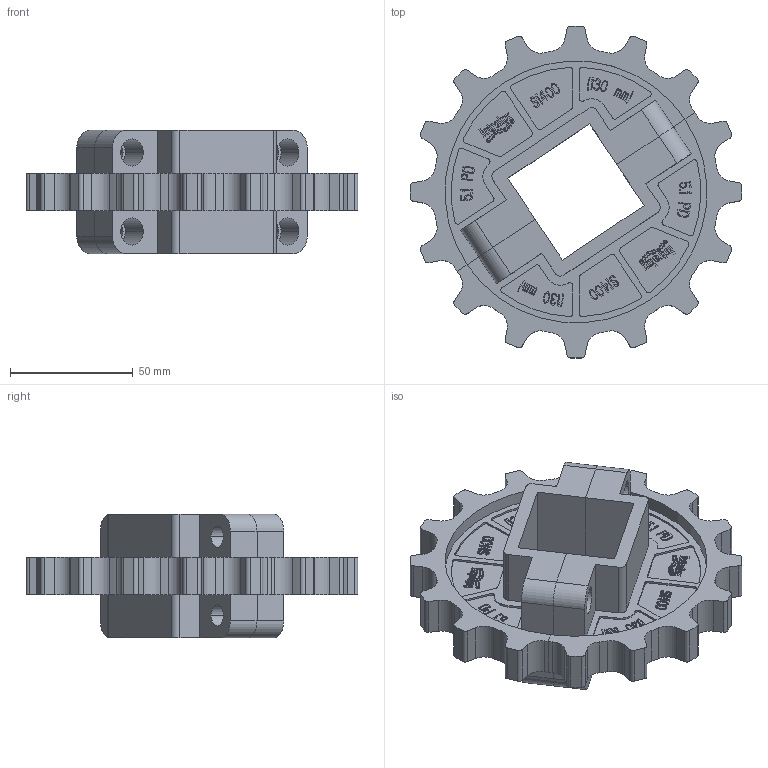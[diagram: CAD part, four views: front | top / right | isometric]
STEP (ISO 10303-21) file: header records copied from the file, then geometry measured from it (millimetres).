
FILE_DESCRIPTION((''),'2;1');
FILE_NAME('S1400_SPLIT_51X15_40_SQ_ASM','2008-12-12T',('jmumphre'),(''),'PRO/ENGINEER BY PARAMETRIC TECHNOLOGY CORPORATION, 2008150','PRO/ENGINEER BY PARAMETRIC TECHNOLOGY CORPORATION, 2008150','');
FILE_SCHEMA(('CONFIG_CONTROL_DESIGN'));
Length unit declared in the file: inch
Products named in the file (3): S1400_SPLIT_51X15_40_BOLT_AF0; S1400_SPLIT_51X15_40_NUT_AF0; S1400_SPLIT_51X15_40_SQ_ASM
Assembly tree (2 placements, depth 2):
  S1400_SPLIT_51X15_40_SQ_ASM
    S1400_SPLIT_51X15_40_BOLT_AF0
    S1400_SPLIT_51X15_40_NUT_AF0
Bounding box: 135.05 x 135.05 x 50.29 mm (x, y, z)
Volume: 166382.4 mm3; surface area: 63030 mm2
Topology: 2 solids, 2 shells, 1834 faces, 5208 edges, 3472 vertices
Faces by surface type: plane 1420, cylinder 414
Entity records: 59226 total; most frequent: CARTESIAN_POINT 10519, ORIENTED_EDGE 10416, DIRECTION 9714, EDGE_CURVE 5208, VECTOR 4380, LINE 4380, VERTEX_POINT 3472, AXIS2_PLACEMENT_3D 2667
